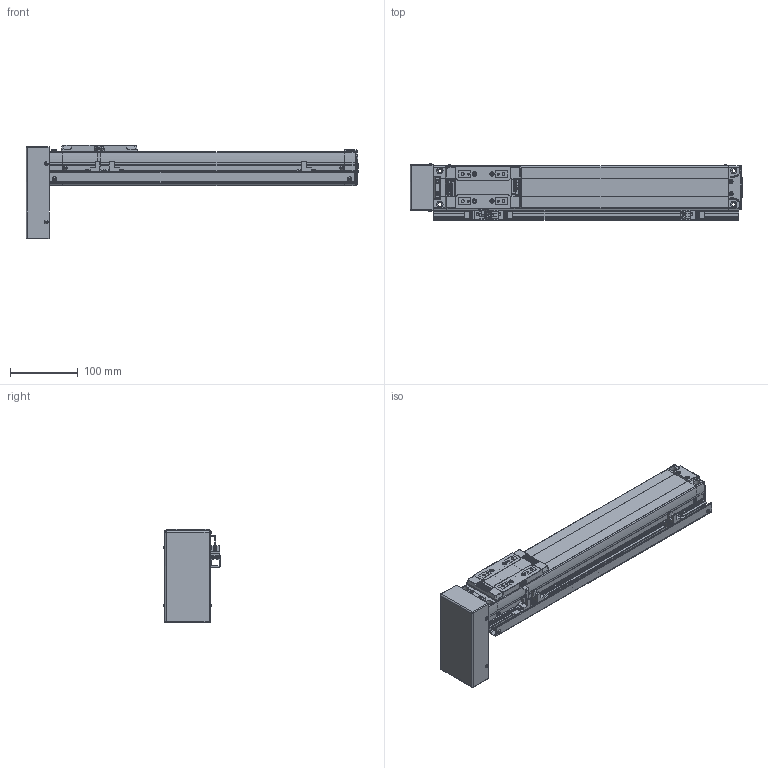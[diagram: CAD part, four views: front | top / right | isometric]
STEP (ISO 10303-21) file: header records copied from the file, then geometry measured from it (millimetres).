
FILE_DESCRIPTION(('STEP AP214'),'1');
FILE_NAME('Z:/Web/3D/SAN65/STP/SAN65ㅁㅁ-300PB+3SR.stp','2012-06-14T05:09:30',(' '),(' '),'Spatial InterOp 3D',' ',' ');
FILE_SCHEMA(('automotive_design'));
Length unit declared in the file: metre
Products named in the file (57): SAN65__-300; BODY-SAN65; REAR-SAN65; RRCV-SAN65; 스크루 : Round - M3.0 x 6.0; FRONT-SAN65; SHAFT-SAN65; RN8 x 0.75; SSFX-SAN65; SLIDE-SAN65; SLCV-SAN65; 스크루 : Countersunk - M3.0 x 6.0; ____200; PB; BTCV-SAN65; M3.0 x 6.0; 3SR; SRL-16x17-450L; - OT; EE-SX674; SBK-SX674-352; HOME; + OT; DOG; SDG-SAN65; 스크루 : Round - M3.0 x 5.0
Assembly tree (56 placements, depth 4):
  ____200
    SAN65__-300
      BODY-SAN65
      REAR-SAN65
        REAR-SAN65
        RRCV-SAN65
        스크루 : Round - M3.0 x 6.0
        스크루 : Round - M3.0 x 6.0
        스크루 : Round - M3.0 x 6.0
        스크루 : Round - M3.0 x 6.0
        스크루 : Round - M3.0 x 6.0
        스크루 : Round - M3.0 x 6.0
      FRONT-SAN65
        FRONT-SAN65
        SHAFT-SAN65
        RN8 x 0.75
        SSFX-SAN65
        스크루 : Round - M3.0 x 6.0
        스크루 : Round - M3.0 x 6.0
        스크루 : Round - M3.0 x 6.0
        스크루 : Round - M3.0 x 6.0
      SLIDE-SAN65
        SLIDE-SAN65
        SLCV-SAN65
        스크루 : Countersunk - M3.0 x 6.0
        스크루 : Countersunk - M3.0 x 6.0
        스크루 : Countersunk - M3.0 x 6.0
        스크루 : Countersunk - M3.0 x 6.0
    PB
      BTCV-SAN65
      M3.0 x 6.0
      M3.0 x 6.0
      M3.0 x 6.0
      M3.0 x 6.0
    3SR
      SRL-16x17-450L
      스크루 : Round - M3.0 x 6.0
      스크루 : Round - M3.0 x 6.0
      - OT
        EE-SX674
        SBK-SX674-352
        스크루 : Round - M3.0 x 6.0
        스크루 : Round - M3.0 x 6.0
      HOME
        EE-SX674
        SBK-SX674-352
        스크루 : Round - M3.0 x 6.0
        스크루 : Round - M3.0 x 6.0
      + OT
        EE-SX674
        SBK-SX674-352
        스크루 : Round - M3.0 x 6.0
        스크루 : Round - M3.0 x 6.0
      DOG
        SDG-SAN65
        스크루 : Round - M3.0 x 5.0
        스크루 : Round - M3.0 x 5.0
Bounding box: 490.15 x 84.06 x 138.5 mm (x, y, z)
Volume: 1814581.5 mm3; surface area: 279087.3 mm2
Topology: 46 solids, 46 shells, 1949 faces, 4975 edges, 3244 vertices
Faces by surface type: plane 1293, cylinder 481, cone 91, sphere 36, bspline 30, torus 15, extrusion 3
Full cylindrical faces by diameter (mm): 0.571 x2, 0.706 x1, 1.727 x2, 2.132 x1, 2.2 x4, 2.5 x15, 2.528 x4, 3 x6, 3.121 x2, 3.3 x4, 3.4 x8, 3.5 x14, 4.2 x26, 4.849 x4, 5 x2, 5.5 x4, 5.987 x2, 6 x6, 6.35 x1, 6.5 x2, 7 x1, 8 x4, 9.5 x4, 13 x1, 15 x1, 19 x1, 26 x1, 38.1 x1
Entity records: 78585 total; most frequent: CARTESIAN_POINT 14945, DIRECTION 9769, ORIENTED_EDGE 9288, EDGE_CURVE 4644, VECTOR 3281, LINE 3278, AXIS2_PLACEMENT_3D 3244, VERTEX_POINT 3180
